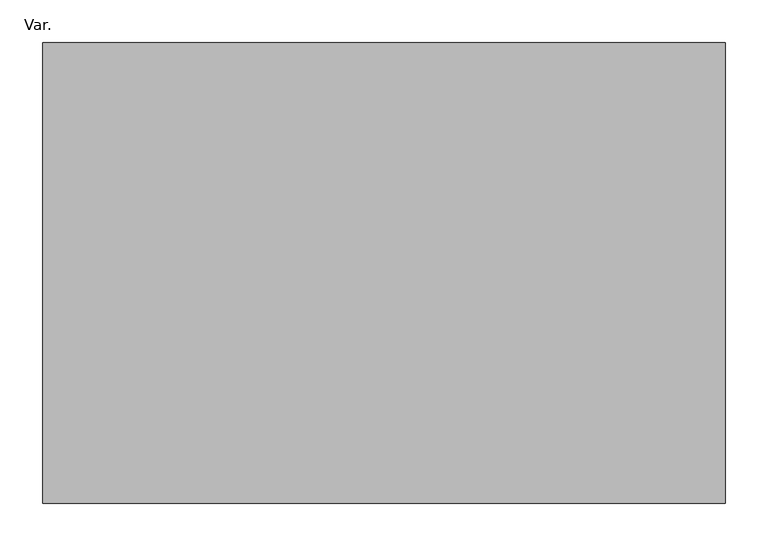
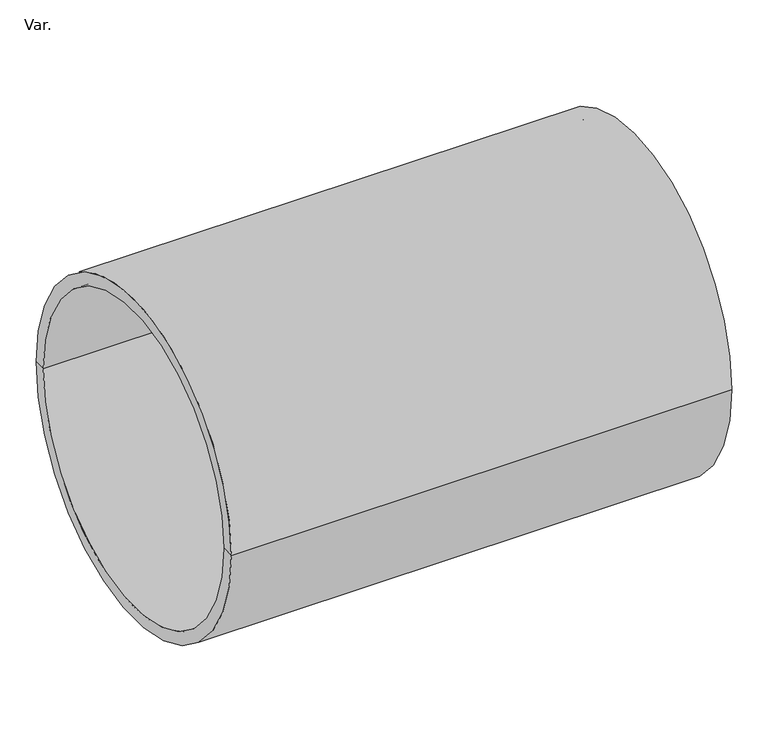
"""IFC4 building model written with IfcOpenShell, lengths in millimetres: pipe fitting geometry, PlastigamaWavin_Unionesdetubería_NovafortZNoUsarElevador : Var.."""

from ifc_helpers import new_model, si_unit, frame, origin, place, context, project, spatial, polyline, circle_curve, source, transform, mapped, element, save
from ifc_brep_helpers import plane_surface, cylinder_surface, revolved_surface, advanced_brep


def var_3774abd7(model_context):
    return source(origin(), model_context, "Body", "AdvancedBrep", [
        advanced_brep(
        [(-69.2453589, -270.0, 0.0), (-69.2453589, 270.0, 0.0), (730.7546411, 270.0, 0.0), (730.7546411, -270.0, 0.0), (-69.2453589, -250.0, 0.0), (-69.2453589, 250.0, 0.0), (730.7546411, -250.0, 0.0), (730.7546411, 250.0, 0.0)],
        [
            (0, 1, circle_curve(frame((-69.2453589, 0.0, 0.0), z_axis=(1.0, 0.0, 0.0), x_axis=(0.0, 1.0, 0.0)), 270.0)),
            (1, 2),
            (2, 3, circle_curve(frame((730.7546411, 0.0, 0.0), z_axis=(-1.0, 0.0, 0.0), x_axis=(0.0, 1.0, 0.0)), 270.0)),
            (3, 0),
            (1, 0, circle_curve(frame((-69.2453589, 0.0, 0.0), z_axis=(1.0, 0.0, 0.0), x_axis=(0.0, 1.0, 0.0)), 270.0)),
            (3, 2, circle_curve(frame((730.7546411, 0.0, 0.0), z_axis=(-1.0, 0.0, 0.0), x_axis=(0.0, 1.0, 0.0)), 270.0)),
            (4, 5, circle_curve(frame((-69.2453589, 0.0, 0.0), z_axis=(1.0, 0.0, 0.0), x_axis=(0.0, 1.0, 0.0)), 250.0)),
            (5, 1),
            (0, 4),
            (5, 4, circle_curve(frame((-69.2453589, 0.0, 0.0), z_axis=(1.0, 0.0, 0.0), x_axis=(0.0, 1.0, 0.0)), 250.0)),
            (6, 7, circle_curve(frame((730.7546411, 0.0, 0.0), z_axis=(1.0, 0.0, 0.0), x_axis=(0.0, 1.0, 0.0)), 250.0)),
            (7, 5),
            (4, 6),
            (7, 6, circle_curve(frame((730.7546411, 0.0, 0.0), z_axis=(1.0, 0.0, 0.0), x_axis=(0.0, 1.0, 0.0)), 250.0)),
            (2, 7),
            (6, 3),
        ],
        [
            cylinder_surface(frame((-2070.4026442, 0.0, 0.0), z_axis=(-1.0, 0.0, 0.0), x_axis=(0.0, 1.0, 0.0)), 270.0),
            plane_surface(frame((-69.2453589, 0.0, 0.0), z_axis=(-1.0, 0.0, 0.0), x_axis=(0.0, 1.0, 0.0))),
            revolved_surface(polyline([(-69.24535889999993, 250.0, 0.0), (730.7546410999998, 250.0, 0.0)]), (-2070.4026442, 0.0, 0.0), (-1.0, 0.0, 0.0)),
            plane_surface(frame((730.7546411, 0.0, 0.0), z_axis=(1.0, 0.0, 0.0), x_axis=(0.0, 1.0, 0.0))),
        ],
        [
            (0, [[1, 2, 3, 4]]),
            (0, [[5, -4, 6, -2]]),
            (1, [[7, 8, -1, 9]]),
            (1, [[10, -9, -5, -8]]),
            (2, [[11, 12, -7, 13]]),
            (2, [[14, -13, -10, -12]]),
            (3, [[-3, 15, -11, 16]]),
            (3, [[-6, -16, -14, -15]]),
        ],
    ),
    ])


if __name__ == "__main__":
    model = new_model("IFC4")
    model_context = context("Model", 3, world=origin())
    ifc_project = project(units=[si_unit("LENGTHUNIT", "METRE", prefix="MILLI")], contexts=[model_context])
    site = spatial("IfcSite", under=ifc_project)
    building = spatial("IfcBuilding", under=site)
    placement = place(None, origin())
    var_shape = var_3774abd7(model_context)
    element("IfcPipeFitting", 1, ObjectType="PlastigamaWavin_Unionesdetubería_NovafortZNoUsarElevador : Var.", at=placement, inside=building, context=model_context, shape_type="MappedRepresentation", body=[
        mapped(var_shape, transform((0.0, 0.0, 0.0), x_axis=(1.0, 0.0, 0.0), y_axis=(0.0, 1.0, 0.0), z_axis=(0.0, 0.0, 1.0))),
    ])
    save(model, "model.ifc")
